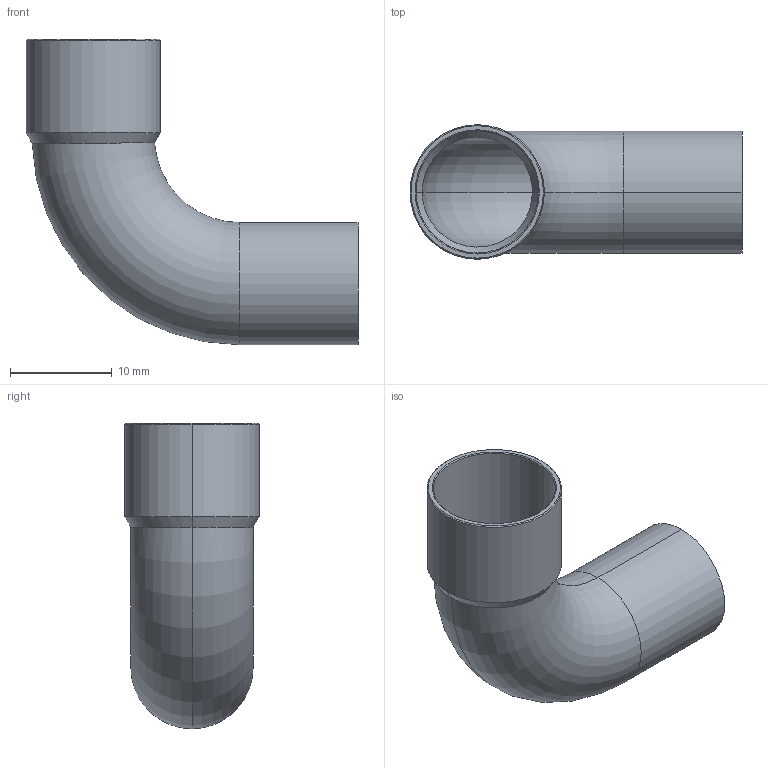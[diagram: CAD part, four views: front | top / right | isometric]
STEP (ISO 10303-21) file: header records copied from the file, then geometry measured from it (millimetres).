
FILE_DESCRIPTION((''),'2;1');
FILE_NAME('P:\Bouwmaten\z-maattekeningen 3D\5000\5001a\15001a12.stp','2005-10-04T14:20:28',('Kris'),(''),'Autodesk Inventor 8','Autodesk Inventor 8','');
FILE_SCHEMA(('AUTOMOTIVE_DESIGN { 1 0 10303 214 1 1 1 1 }'));
Length unit declared in the file: millimetre
Products named in the file (1): 15001a12
Bounding box: 32.6 x 13.2 x 30 mm (x, y, z)
Volume: 966.6 mm3; surface area: 3263.8 mm2
Topology: 1 solids, 1 shells, 22 faces, 46 edges, 26 vertices
Faces by surface type: cone 8, cylinder 8, torus 4, plane 2
Entity records: 679 total; most frequent: CARTESIAN_POINT 171, DIRECTION 114, ORIENTED_EDGE 92, AXIS2_PLACEMENT_3D 49, EDGE_CURVE 46, VERTEX_POINT 26, CIRCLE 26, EDGE_LOOP 24
